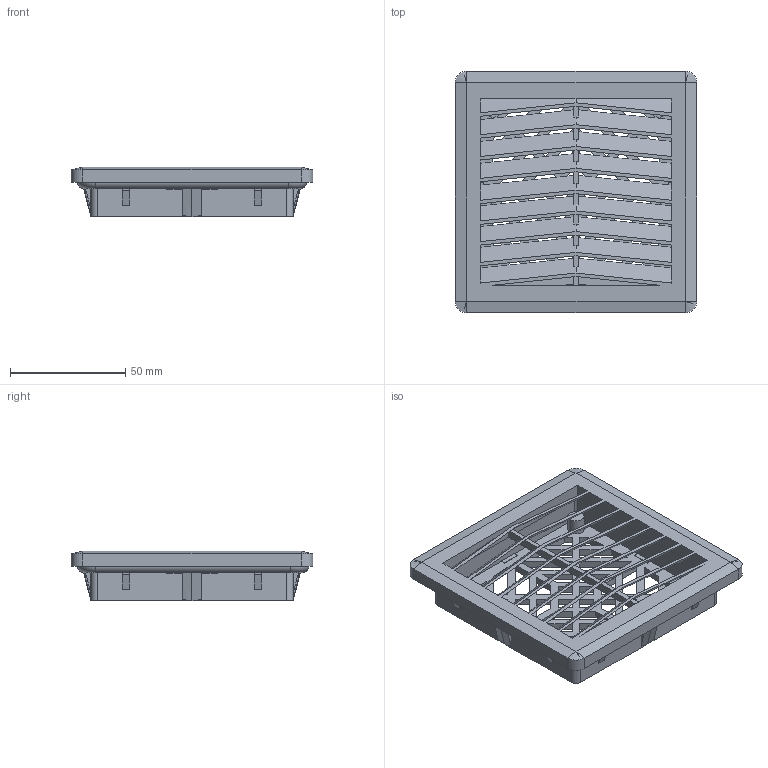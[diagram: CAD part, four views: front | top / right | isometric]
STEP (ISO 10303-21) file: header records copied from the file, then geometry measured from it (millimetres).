
FILE_DESCRIPTION (( 'STEP AP214' ), '1' );
FILE_NAME ('FF 08 Ðåøåòêà ñ ôèëüòðîì.STEP', '2018-08-23T11:02:29', ( '' ), ( '' ), 'SwSTEP 2.0', 'SolidWorks 2012', '' );
FILE_SCHEMA (( 'AUTOMOTIVE_DESIGN' ));
Length unit declared in the file: millimetre
Products named in the file (3): Çàùåëêà_‡ é¥«ª  8å4; Ðåøåòêà FF 08 áåç çàùåëîê; FF 08 Ðåøåòêà ñ ôèëüòðîì
Assembly tree (5 placements, depth 2):
  FF 08 Ðåøåòêà ñ ôèëüòðîì
    Ðåøåòêà FF 08 áåç çàùåëîê
    Çàùåëêà_‡ é¥«ª  8å4  x4
Bounding box: 105 x 105 x 21.5 mm (x, y, z)
Volume: 64075.3 mm3; surface area: 55482.2 mm2
Topology: 9 solids, 9 shells, 488 faces, 1377 edges, 894 vertices
Faces by surface type: plane 428, cylinder 52, cone 4, torus 4
Entity records: 14588 total; most frequent: CARTESIAN_POINT 2542, ORIENTED_EDGE 2476, DIRECTION 2211, EDGE_CURVE 1238, VECTOR 1127, LINE 1127, VERTEX_POINT 807, EDGE_LOOP 547
